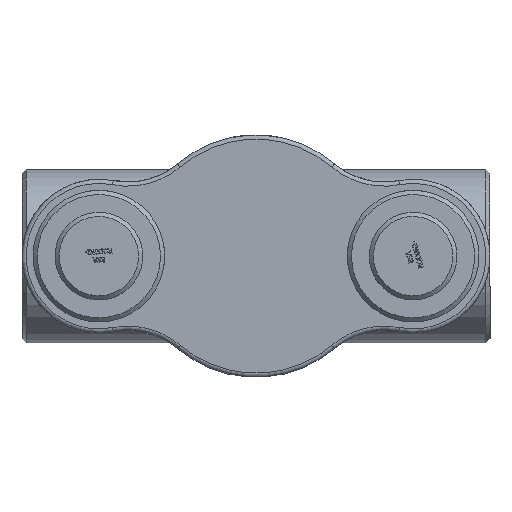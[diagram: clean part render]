
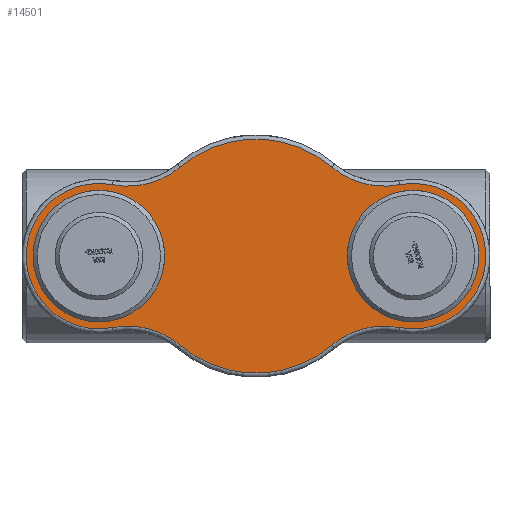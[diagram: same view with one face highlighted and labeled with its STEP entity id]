
A CAD part, front view. The second image highlights one B-rep face of the part: STEP entity #14501.
In plain terms, the highlighted planar face has unit normal (0, -1, 0) as drawn and (0, 0, -1) by its records, which use the part's own axes.
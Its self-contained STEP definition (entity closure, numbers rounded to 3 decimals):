
#3802=PLANE('',#15441);
#4168=FACE_BOUND('',#5123,.T.);
#4169=FACE_BOUND('',#5124,.T.);
#4271=FACE_OUTER_BOUND('',#5122,.T.);
#5122=EDGE_LOOP('',(#9992,#9993,#9994,#9995,#9996,#9997,#9998,#9999));
#5123=EDGE_LOOP('',(#10000));
#5124=EDGE_LOOP('',(#10001));
#6074=CIRCLE('',#15440,60.);
#6075=CIRCLE('',#15442,87.);
#6076=CIRCLE('',#15443,97.);
#6077=CIRCLE('',#15444,140.);
#6078=CIRCLE('',#15445,97.);
#6079=CIRCLE('',#15446,87.);
#6080=CIRCLE('',#15447,97.);
#6081=CIRCLE('',#15448,140.);
#6082=CIRCLE('',#15449,97.);
#6083=CIRCLE('',#15450,60.);
#6250=VERTEX_POINT('',#18663);
#6251=VERTEX_POINT('',#18666);
#6252=VERTEX_POINT('',#18667);
#6253=VERTEX_POINT('',#18669);
#6254=VERTEX_POINT('',#18671);
#6255=VERTEX_POINT('',#18673);
#6256=VERTEX_POINT('',#18675);
#6257=VERTEX_POINT('',#18677);
#6258=VERTEX_POINT('',#18679);
#6259=VERTEX_POINT('',#18682);
#7746=EDGE_CURVE('',#6250,#6250,#6074,.T.);
#7747=EDGE_CURVE('',#6251,#6252,#6075,.T.);
#7748=EDGE_CURVE('',#6253,#6251,#6076,.T.);
#7749=EDGE_CURVE('',#6254,#6253,#6077,.T.);
#7750=EDGE_CURVE('',#6255,#6254,#6078,.T.);
#7751=EDGE_CURVE('',#6256,#6255,#6079,.T.);
#7752=EDGE_CURVE('',#6257,#6256,#6080,.T.);
#7753=EDGE_CURVE('',#6258,#6257,#6081,.T.);
#7754=EDGE_CURVE('',#6252,#6258,#6082,.T.);
#7755=EDGE_CURVE('',#6259,#6259,#6083,.T.);
#9992=ORIENTED_EDGE('',*,*,#7747,.F.);
#9993=ORIENTED_EDGE('',*,*,#7748,.F.);
#9994=ORIENTED_EDGE('',*,*,#7749,.F.);
#9995=ORIENTED_EDGE('',*,*,#7750,.F.);
#9996=ORIENTED_EDGE('',*,*,#7751,.F.);
#9997=ORIENTED_EDGE('',*,*,#7752,.F.);
#9998=ORIENTED_EDGE('',*,*,#7753,.F.);
#9999=ORIENTED_EDGE('',*,*,#7754,.F.);
#10000=ORIENTED_EDGE('',*,*,#7755,.F.);
#10001=ORIENTED_EDGE('',*,*,#7746,.F.);
#14501=ADVANCED_FACE('',(#4271,#4168,#4169),#3802,.F.);
#15440=AXIS2_PLACEMENT_3D('',#18664,#16115,#16116);
#15441=AXIS2_PLACEMENT_3D('',#18665,#16117,#16118);
#15442=AXIS2_PLACEMENT_3D('',#18668,#16119,#16120);
#15443=AXIS2_PLACEMENT_3D('',#18670,#16121,#16122);
#15444=AXIS2_PLACEMENT_3D('',#18672,#16123,#16124);
#15445=AXIS2_PLACEMENT_3D('',#18674,#16125,#16126);
#15446=AXIS2_PLACEMENT_3D('',#18676,#16127,#16128);
#15447=AXIS2_PLACEMENT_3D('',#18678,#16129,#16130);
#15448=AXIS2_PLACEMENT_3D('',#18680,#16131,#16132);
#15449=AXIS2_PLACEMENT_3D('',#18681,#16133,#16134);
#15450=AXIS2_PLACEMENT_3D('',#18683,#16135,#16136);
#16115=DIRECTION('center_axis',(0.,0.,-1.));
#16116=DIRECTION('ref_axis',(1.,0.,0.));
#16117=DIRECTION('center_axis',(0.,0.,1.));
#16118=DIRECTION('ref_axis',(1.,0.,0.));
#16119=DIRECTION('center_axis',(0.,0.,1.));
#16120=DIRECTION('ref_axis',(-1.,0.,0.));
#16121=DIRECTION('center_axis',(0.,0.,-1.));
#16122=DIRECTION('ref_axis',(0.254,-0.967,0.));
#16123=DIRECTION('center_axis',(0.,0.,1.));
#16124=DIRECTION('ref_axis',(0.,1.,0.));
#16125=DIRECTION('center_axis',(0.,0.,-1.));
#16126=DIRECTION('ref_axis',(-0.254,-0.967,0.));
#16127=DIRECTION('center_axis',(0.,0.,1.));
#16128=DIRECTION('ref_axis',(1.,0.,0.));
#16129=DIRECTION('center_axis',(0.,0.,-1.));
#16130=DIRECTION('ref_axis',(-0.254,0.967,0.));
#16131=DIRECTION('center_axis',(0.,0.,1.));
#16132=DIRECTION('ref_axis',(0.,-1.,0.));
#16133=DIRECTION('center_axis',(0.,0.,-1.));
#16134=DIRECTION('ref_axis',(0.254,0.967,0.));
#16135=DIRECTION('center_axis',(0.,0.,-1.));
#16136=DIRECTION('ref_axis',(1.,0.,0.));
#18663=CARTESIAN_POINT('',(128.,0.,0.));
#18664=CARTESIAN_POINT('Origin',(188.,0.,0.));
#18665=CARTESIAN_POINT('Origin',(0.,0.,0.));
#18666=CARTESIAN_POINT('',(-171.613,85.443,0.));
#18667=CARTESIAN_POINT('',(-171.613,-85.443,0.));
#18668=CARTESIAN_POINT('Origin',(-188.,0.,0.));
#18669=CARTESIAN_POINT('',(-90.582,106.747,0.));
#18670=CARTESIAN_POINT('Origin',(-153.343,180.707,0.));
#18671=CARTESIAN_POINT('',(90.582,106.747,0.));
#18672=CARTESIAN_POINT('Origin',(0.,0.,0.));
#18673=CARTESIAN_POINT('',(171.613,85.443,0.));
#18674=CARTESIAN_POINT('Origin',(153.343,180.707,0.));
#18675=CARTESIAN_POINT('',(171.613,-85.443,0.));
#18676=CARTESIAN_POINT('Origin',(188.,0.,0.));
#18677=CARTESIAN_POINT('',(90.582,-106.747,0.));
#18678=CARTESIAN_POINT('Origin',(153.343,-180.707,0.));
#18679=CARTESIAN_POINT('',(-90.582,-106.747,0.));
#18680=CARTESIAN_POINT('Origin',(0.,0.,0.));
#18681=CARTESIAN_POINT('Origin',(-153.343,-180.707,0.));
#18682=CARTESIAN_POINT('',(-248.,0.,0.));
#18683=CARTESIAN_POINT('Origin',(-188.,0.,0.));
